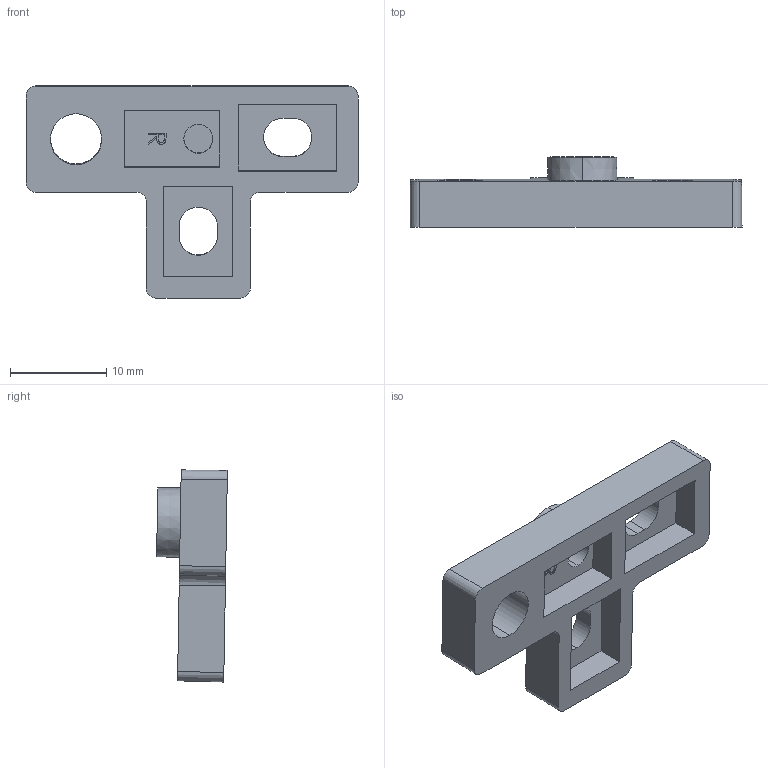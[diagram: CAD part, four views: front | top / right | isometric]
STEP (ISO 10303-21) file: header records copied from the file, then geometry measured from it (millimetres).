
FILE_DESCRIPTION (( 'STEP AP214' ), '1' );
FILE_NAME ('ZP R Foot.STEP', '2016-11-15T12:46:05', ( '' ), ( '' ), 'SwSTEP 2.0', 'SolidWorks 2016', '' );
FILE_SCHEMA (( 'AUTOMOTIVE_DESIGN' ));
Length unit declared in the file: millimetre
Products named in the file (1): ZP R Foot
Bounding box: 34.5 x 7.36 x 22.04 mm (x, y, z)
Volume: 1755.2 mm3; surface area: 1887.5 mm2
Topology: 1 solids, 1 shells, 71 faces, 186 edges, 124 vertices
Faces by surface type: plane 44, cylinder 12, cone 10, bspline 5
Entity records: 2528 total; most frequent: CARTESIAN_POINT 715, ORIENTED_EDGE 372, DIRECTION 354, EDGE_CURVE 186, LINE 132, VECTOR 132, VERTEX_POINT 124, AXIS2_PLACEMENT_3D 111
